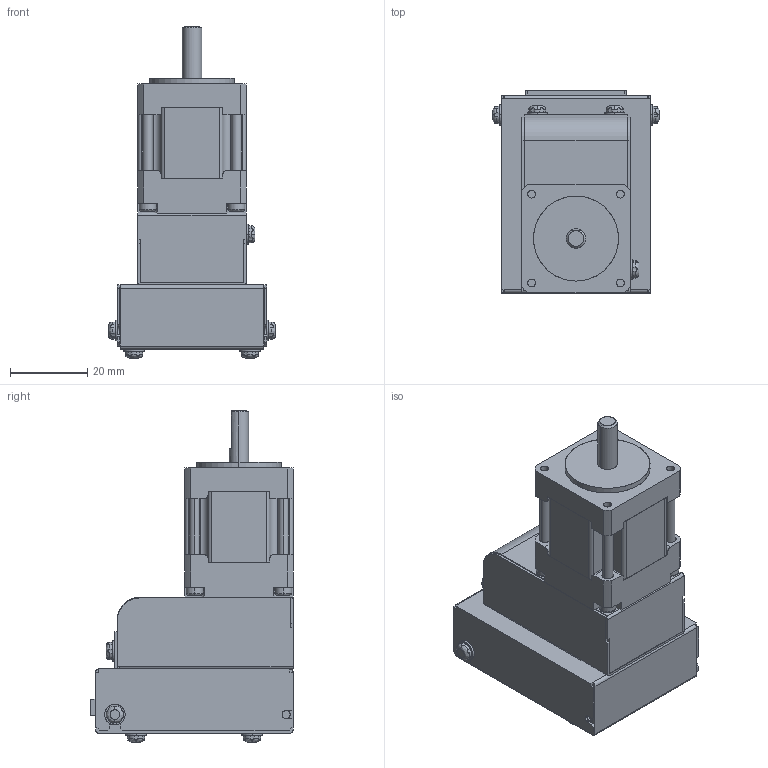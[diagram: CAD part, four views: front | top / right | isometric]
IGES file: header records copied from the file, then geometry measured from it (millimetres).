
Start section: SolidWorks IGES file using analytic representation for surfaces
Global section: file name: D:\Users\Ulrich\Documents\wichtig\CAD & Grafik\Coolmuscle Inc\CM1 Motors\sent 09-Oct-07\Coolmuscle Motor CM1-X-11X30.IGS; native system: SolidWorks 2007; preprocessor: SolidWorks 2007; author: Ulrich; date: 071009.150819; units: millimetre
Bounding box: 43.2 x 52.3 x 85.9 mm (x, y, z)
Surface area: 33527.8 mm2 (no closed solid volume)
Topology: 0 solids, 0 shells, 835 faces, 7607 edges, 7607 vertices
Faces by surface type: bspline 593, revolution 242
